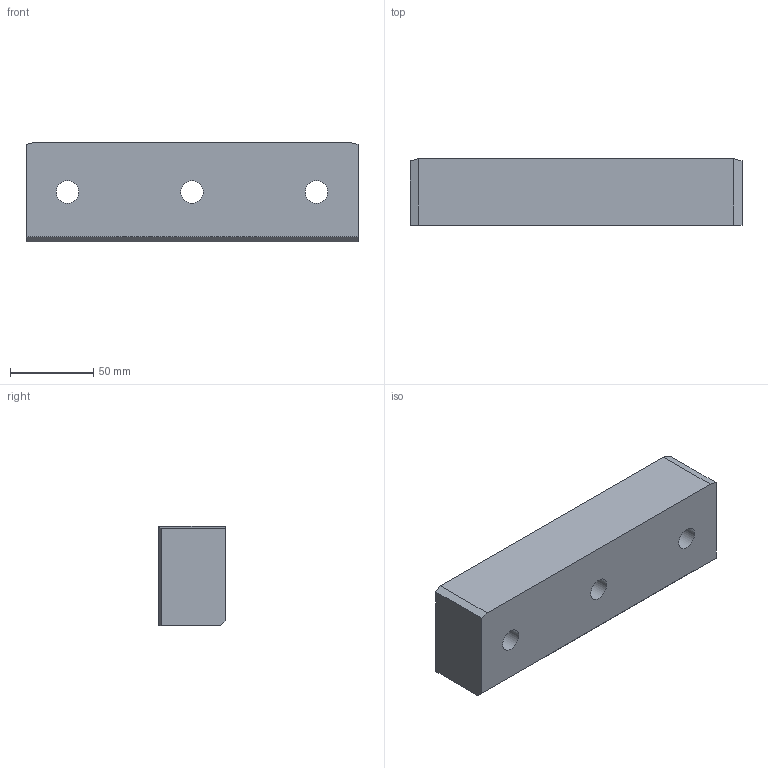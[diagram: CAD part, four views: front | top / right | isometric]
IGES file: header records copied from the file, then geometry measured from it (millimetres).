
Start section: Data from Parasolid IGES Translator 20.0.26, Copyright(c) 2006 Siemens P LM Software. All Rights Reserved.
Global section: file name: G224-12-040-200.igs; native system: By Siemens PLM Incorporated; preprocessor: XPlus GENERIC/IGES 20.0.26; author: Noname; organization: Noname; date: 20190709.085247; units: millimetre
Bounding box: 200 x 40 x 60 mm (x, y, z)
Surface area: 49210.1 mm2 (no closed solid volume)
Topology: 0 solids, 0 shells, 20 faces, 86 edges, 80 vertices
Faces by surface type: extrusion 14, revolution 6
